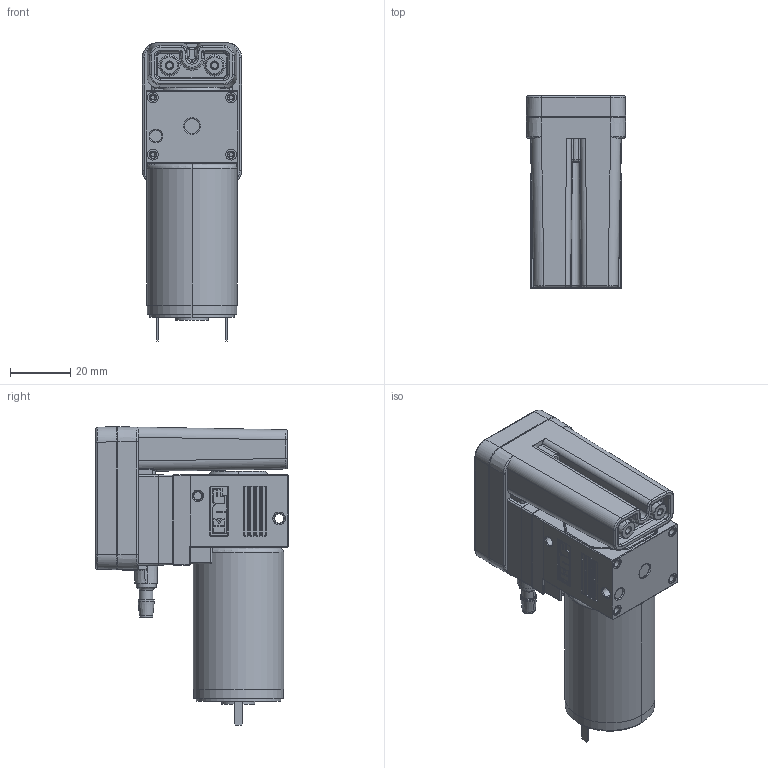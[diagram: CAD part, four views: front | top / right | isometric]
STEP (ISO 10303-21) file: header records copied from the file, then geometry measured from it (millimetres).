
FILE_DESCRIPTION((''),'2;1');
FILE_NAME('358675','2026-01-13T12:05:46',('Brian.Timoney'),('KNF Flodos AG, 6210 Sursee, Switzerland'),'CREO PARAMETRIC BY PTC INC, 2024401','CREO PARAMETRIC BY PTC INC, 2024401','');
FILE_SCHEMA(('AP242_MANAGED_MODEL_BASED_3D_ENGINEERING_MIM_LF { 1 0 10303 442 1 1 4 }'));
Products named in the file (1): 358675
Bounding box: 33 x 63.9 x 99.25 mm (x, y, z)
Volume: 115419.1 mm3; surface area: 27006.2 mm2
Topology: 1 solids, 1 shells, 3498 faces, 9220 edges, 5884 vertices
Faces by surface type: plane 2108, cylinder 810, torus 228, bspline 196, cone 122, sphere 34
Entity records: 189751 total; most frequent: CARTESIAN_POINT 103837, ORIENTED_EDGE 18440, DIRECTION 16836, EDGE_CURVE 9220, VECTOR 6620, LINE 6620, VERTEX_POINT 5884, AXIS2_PLACEMENT_3D 5108
